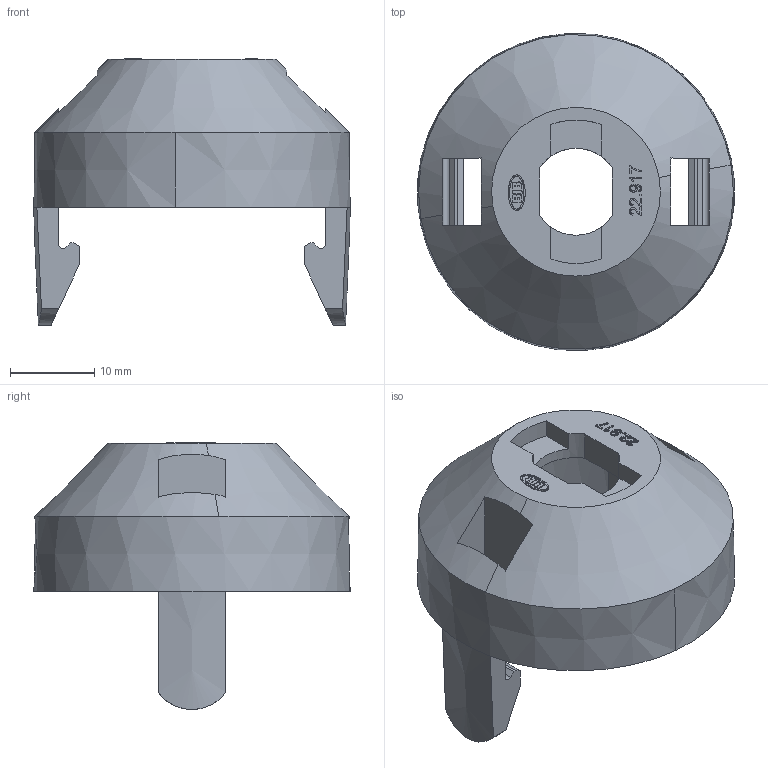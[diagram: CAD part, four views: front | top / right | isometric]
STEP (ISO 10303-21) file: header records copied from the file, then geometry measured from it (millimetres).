
FILE_DESCRIPTION((' '),'1');
FILE_NAME('C:\Programme\CoreTechnologie\in\008YC06Y02.stp','2005-03-14 T',(' '),(' '),'STEP Interface v1717986918.1073636966 by CT CoreTechnologie','3D Evolution v0.1072693248 by CT CoreTechnologie',' ');
FILE_SCHEMA(('CONFIG_CONTROL_DESIGN'));
Length unit declared in the file: metre
Products named in the file (1): 008YC06Y02
Bounding box: 37.5 x 37.54 x 31.6 mm (x, y, z)
Volume: 4414.8 mm3; surface area: 5855.4 mm2
Topology: 1 solids, 1 shells, 184 faces, 502 edges, 332 vertices
Faces by surface type: plane 102, cylinder 67, cone 8, bspline 7
Entity records: 6459 total; most frequent: CARTESIAN_POINT 1675, ORIENTED_EDGE 1004, DIRECTION 994, EDGE_CURVE 502, AXIS2_PLACEMENT_3D 335, VERTEX_POINT 332, VECTOR 324, LINE 324
